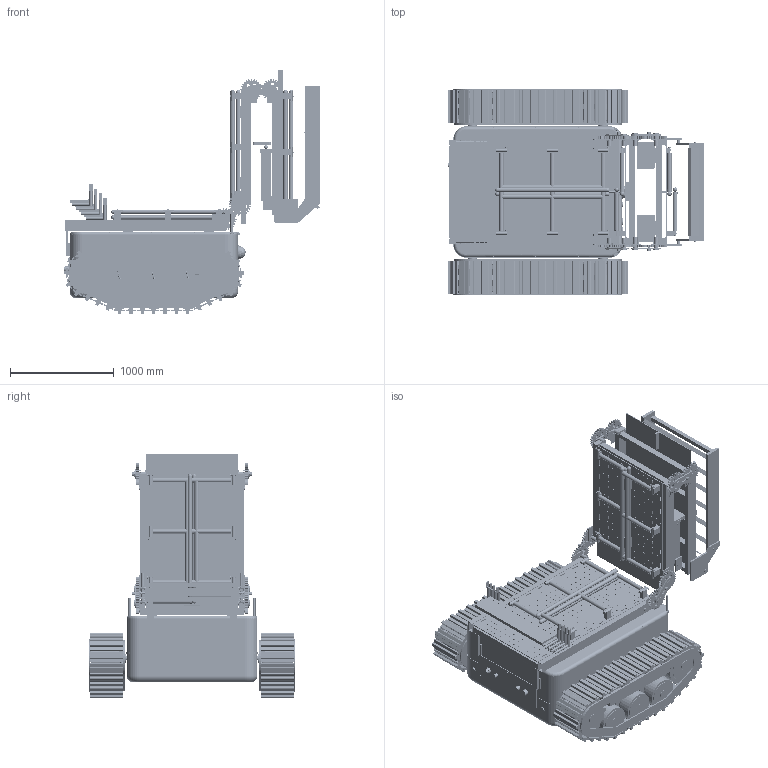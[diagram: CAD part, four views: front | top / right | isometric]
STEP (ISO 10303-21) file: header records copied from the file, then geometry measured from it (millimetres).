
FILE_DESCRIPTION(('Open CASCADE Model'),'2;1');
FILE_NAME('Open CASCADE Shape Model','2026-11-24T20:13:06',('Author'),( 'Open CASCADE'),'Open CASCADE STEP processor 7.9','Open CASCADE 7.9' ,'Unknown');
FILE_SCHEMA(('AUTOMOTIVE_DESIGN { 1 0 10303 214 1 1 1 1 }'));
Length unit declared in the file: centimetre
Products named in the file (676): AKORA_C07_FIRST_PLATFORM_OPEN; 01_MAIN_BODY; BODY_LOWER; BODY_LOWER_TUB; BODY_JOINT_FLANGE_INNER; BODY_UPPER; BODY_UPPER_TUB; BODY_JOINT_BEAD; COVER_GASKET; COVER_GASKET_EPDM_10x8; PEDESTAL_GROMMET_600_L; PEDESTAL_GROMMET_600_R; PEDESTAL_GROMMET_1380_L; PEDESTAL_GROMMET_1380_R; SERVICE_PANEL_REAR_GASKET; COVER_INTERLOCK; COVER_SEAT_RING_FEMALE; COVER_LOCKS; COVER_QUARTER_TURN_STUD_01; COVER_RECEPTACLE_01; COVER_QUARTER_TURN_STUD_02; COVER_RECEPTACLE_02; COVER_QUARTER_TURN_STUD_03; COVER_RECEPTACLE_03; COVER_QUARTER_TURN_STUD_04; COVER_RECEPTACLE_04; COVER_QUARTER_TURN_STUD_05; COVER_RECEPTACLE_05; COVER_QUARTER_TURN_STUD_06; COVER_RECEPTACLE_06; COVER_QUARTER_TURN_STUD_07; COVER_RECEPTACLE_07; COVER_QUARTER_TURN_STUD_08; COVER_RECEPTACLE_08; COVER_QUARTER_TURN_STUD_09; COVER_RECEPTACLE_09; COVER_QUARTER_TURN_STUD_10; COVER_RECEPTACLE_10; INTERNAL_FRAME; FRAME_RAIL_L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
Assembly tree (743 placements, depth 5):
  AKORA_C07_FIRST_PLATFORM_OPEN
    01_MAIN_BODY
      BODY_LOWER
        BODY_LOWER_TUB
        BODY_JOINT_FLANGE_INNER
      BODY_UPPER
        BODY_UPPER_TUB
        BODY_JOINT_BEAD
      COVER_GASKET
        COVER_GASKET_EPDM_10x8
        PEDESTAL_GROMMET_600_L
        PEDESTAL_GROMMET_600_R
        PEDESTAL_GROMMET_1380_L
        PEDESTAL_GROMMET_1380_R
        SERVICE_PANEL_REAR_GASKET
      COVER_INTERLOCK
        COVER_SEAT_RING_FEMALE
      COVER_LOCKS
        COVER_QUARTER_TURN_STUD_01
        COVER_RECEPTACLE_01
        COVER_QUARTER_TURN_STUD_02
        COVER_RECEPTACLE_02
        COVER_QUARTER_TURN_STUD_03
        COVER_RECEPTACLE_03
        COVER_QUARTER_TURN_STUD_04
        COVER_RECEPTACLE_04
        COVER_QUARTER_TURN_STUD_05
        COVER_RECEPTACLE_05
        COVER_QUARTER_TURN_STUD_06
        COVER_RECEPTACLE_06
        COVER_QUARTER_TURN_STUD_07
        COVER_RECEPTACLE_07
        COVER_QUARTER_TURN_STUD_08
        COVER_RECEPTACLE_08
        COVER_QUARTER_TURN_STUD_09
        COVER_RECEPTACLE_09
        COVER_QUARTER_TURN_STUD_10
        COVER_RECEPTACLE_10
      INTERNAL_FRAME
        FRAME_RAIL_L
        FRAME_RAIL_R
        FRAME_CROSS_1
        FRAME_CROSS_2
        FRAME_CROSS_3
        FRAME_CROSS_4
        FRAME_CROSS_5
        TRACK_MOTOR_PLATE_L
        TRACK_MOTOR_PLATE_R
      MOUNTING_BRACKETS
        FRAME_WALL_BRACKET_L_400
        FRAME_WALL_BRACKET_L_1300
        FRAME_WALL_BRACKET_R_400
        FRAME_WALL_BRACKET_R_1300
        P1_PEDESTAL_600_L
        P1_PEDESTAL_600_R
        P1_PEDESTAL_1380_L
        P1_PEDESTAL_1380_R
        REAR_LANDING_BRACKET_L
        REAR_LANDING_BRACKET_R
      SERVICE_PANELS
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Bounding box: 2476.23 x 1994 x 2347.19 mm (x, y, z)
Volume: 628183892.7 mm3; surface area: 87864523.7 mm2
Topology: 1494 solids, 1498 shells, 16526 faces, 39817 edges, 26536 vertices
Faces by surface type: plane 14101, cylinder 2385, sphere 22, torus 16, revolution 2
Full cylindrical faces by diameter (mm): 8 x18, 9 x20, 9.2 x10, 10 x150, 10.5 x4, 12 x34, 13 x4, 14 x4, 16 x36, 17 x8, 18 x4, 20 x15, 22 x12, 24 x39, 25 x16, 28 x34, 30 x64, 30.6 x40, 32 x22, 34 x36, 36 x4, 37 x54, 40 x96, 41 x8, 42 x54, 44 x11, 48 x24, 56 x2, 60 x5, 62 x4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
Entity records: 931551 total; most frequent: CARTESIAN_POINT 190398, DIRECTION 134825, LINE 95116, VECTOR 95116, ORIENTED_EDGE 69780, PCURVE 69764, DEFINITIONAL_REPRESENTATION 69764, EDGE_CURVE 34882
